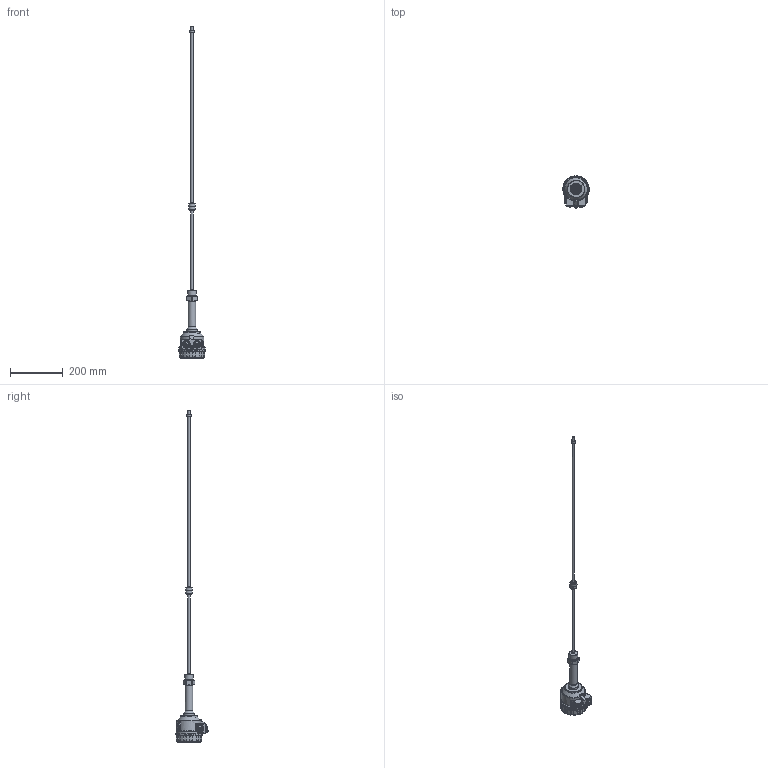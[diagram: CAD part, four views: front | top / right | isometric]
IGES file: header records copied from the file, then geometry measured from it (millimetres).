
Global section: file name: M_RK_Aszer_1,5col; native system: Autodesk Inventor 2015; preprocessor: unknown; author: aantal; date: 20150306.112159; units: millimetre
Bounding box: 100 x 122.56 x 1261 mm (x, y, z)
Volume: 818562.6 mm3; surface area: 136607.2 mm2
Topology: 15 solids, 15 shells, 1200 faces, 3029 edges, 1909 vertices
Faces by surface type: bspline 1200
